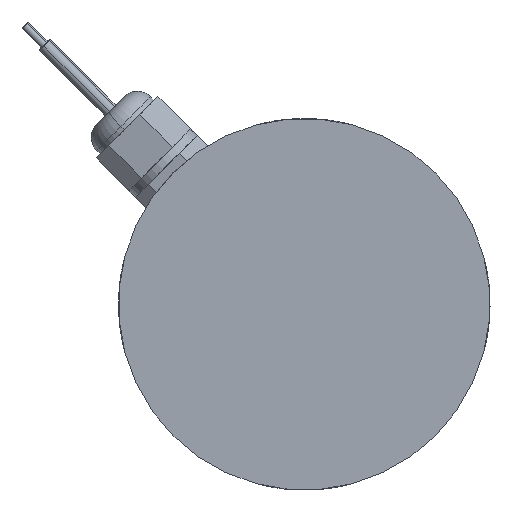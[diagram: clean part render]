
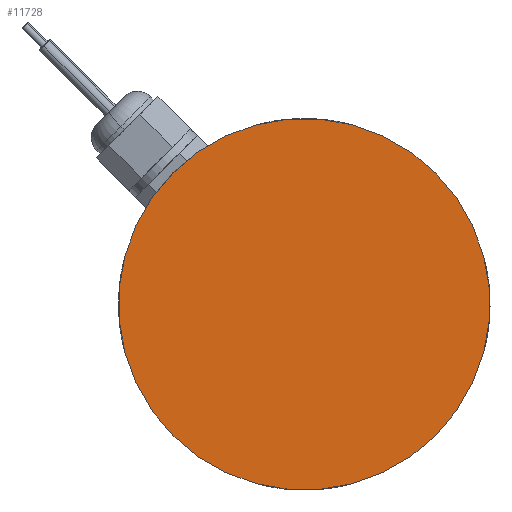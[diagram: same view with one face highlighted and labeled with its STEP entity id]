
A CAD part, left-side view. The second image highlights one B-rep face of the part: STEP entity #11728.
In plain terms, the highlighted planar face has unit normal (-1, 0, 0).
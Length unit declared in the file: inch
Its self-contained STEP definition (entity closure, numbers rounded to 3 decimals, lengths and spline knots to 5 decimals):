
#355 = EDGE_LOOP ( 'NONE', ( #11476, #3410 ) ) ;
#856 = CARTESIAN_POINT ( 'NONE',  ( -2.25027, 3.30494, 9.46186 ) ) ;
#1313 = VERTEX_POINT ( 'NONE', #5441 ) ;
#2589 = EDGE_CURVE ( 'NONE', #1313, #5903, #7620, .T. ) ;
#2851 = FACE_OUTER_BOUND ( 'NONE', #355, .T. ) ;
#2948 = CARTESIAN_POINT ( 'NONE',  ( -2.25027, 4.71916, 8.04765 ) ) ;
#3410 = ORIENTED_EDGE ( 'NONE', *, *, #7490, .F. ) ;
#3525 = CARTESIAN_POINT ( 'NONE',  ( -2.25027, 4.71916, 8.04765 ) ) ;
#3928 = DIRECTION ( 'NONE',  ( 0., -0.707, 0.707 ) ) ;
#4539 = DIRECTION ( 'NONE',  ( 1., 0., 0. ) ) ;
#5062 = DIRECTION ( 'NONE',  ( 1., 0., 0. ) ) ;
#5441 = CARTESIAN_POINT ( 'NONE',  ( -2.25027, 6.13337, 6.63344 ) ) ;
#5903 = VERTEX_POINT ( 'NONE', #856 ) ;
#7408 = DIRECTION ( 'NONE',  ( 1., 0., 0. ) ) ;
#7490 = EDGE_CURVE ( 'NONE', #5903, #1313, #8010, .T. ) ;
#7620 = CIRCLE ( 'NONE', #13125, 2. ) ;
#8010 = CIRCLE ( 'NONE', #12885, 2. ) ;
#8654 = PLANE ( 'NONE',  #10685 ) ;
#9677 = CARTESIAN_POINT ( 'NONE',  ( -2.25027, 4.71916, 8.04765 ) ) ;
#10631 = DIRECTION ( 'NONE',  ( 0., -0.707, 0.707 ) ) ;
#10685 = AXIS2_PLACEMENT_3D ( 'NONE', #9677, #4539, #11644 ) ;
#11476 = ORIENTED_EDGE ( 'NONE', *, *, #2589, .F. ) ;
#11644 = DIRECTION ( 'NONE',  ( 0., -0.707, 0.707 ) ) ;
#11728 = ADVANCED_FACE ( 'NONE', ( #2851 ), #8654, .F. ) ;
#12885 = AXIS2_PLACEMENT_3D ( 'NONE', #2948, #5062, #3928 ) ;
#13125 = AXIS2_PLACEMENT_3D ( 'NONE', #3525, #7408, #10631 ) ;
